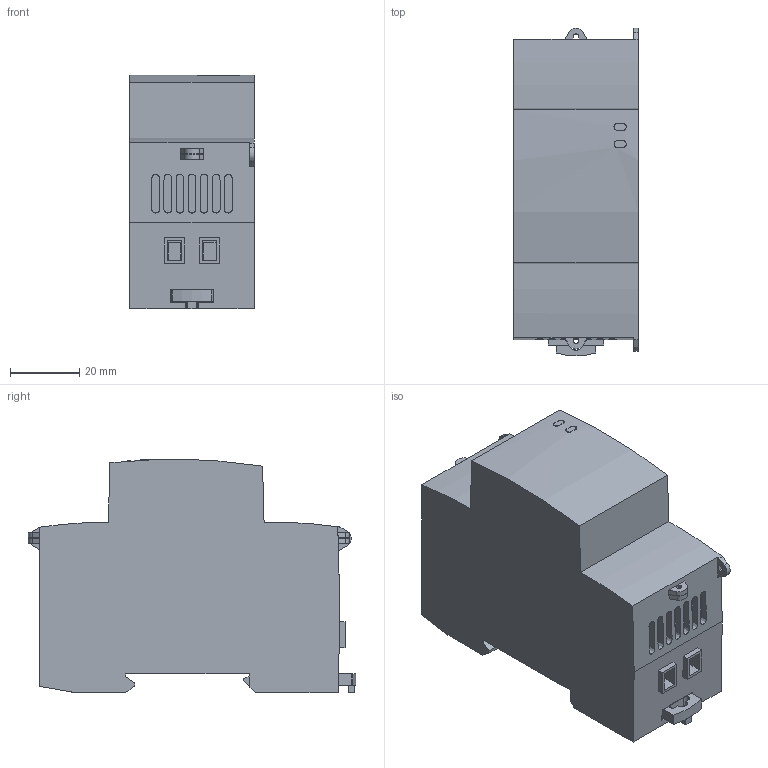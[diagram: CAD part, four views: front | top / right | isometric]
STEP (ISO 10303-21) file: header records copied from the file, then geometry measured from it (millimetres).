
FILE_DESCRIPTION((''),'2;1');
FILE_NAME('1690447483230_ASM','2023-07-27T14:15:19',('SESA540900'),('Schneider-Electric'),'CREO PARAMETRIC BY PTC INC, 2021284','CREO PARAMETRIC BY PTC INC, 2021284','');
FILE_SCHEMA(('AP242_MANAGED_MODEL_BASED_3D_ENGINEERING_MIM_LF { 1 0 10303 442 1 1 4 }'));
Length unit declared in the file: millimetre
Products named in the file (5): EMPTYNODE_1690447483309_ASM; GDE90699-3D; AAV3180501_LOCK_2_1; GDE90699-3D_ASM; 1690447483230_ASM
Assembly tree (4 placements, depth 3):
  1690447483230_ASM
    EMPTYNODE_1690447483309_ASM
    GDE90699-3D_ASM
      GDE90699-3D
      AAV3180501_LOCK_2_1
Bounding box: 36 x 94.57 x 67.54 mm (x, y, z)
Volume: 172379.2 mm3; surface area: 24350.5 mm2
Topology: 2 solids, 2 shells, 374 faces, 990 edges, 658 vertices
Faces by surface type: plane 266, extrusion 63, cylinder 45
Entity records: 16234 total; most frequent: CARTESIAN_POINT 3919, ORIENTED_EDGE 1980, DIRECTION 1663, EDGE_CURVE 990, VECTOR 835, LINE 772, VERTEX_POINT 658, PRESENTATION_STYLE_ASSIGNMENT 557
